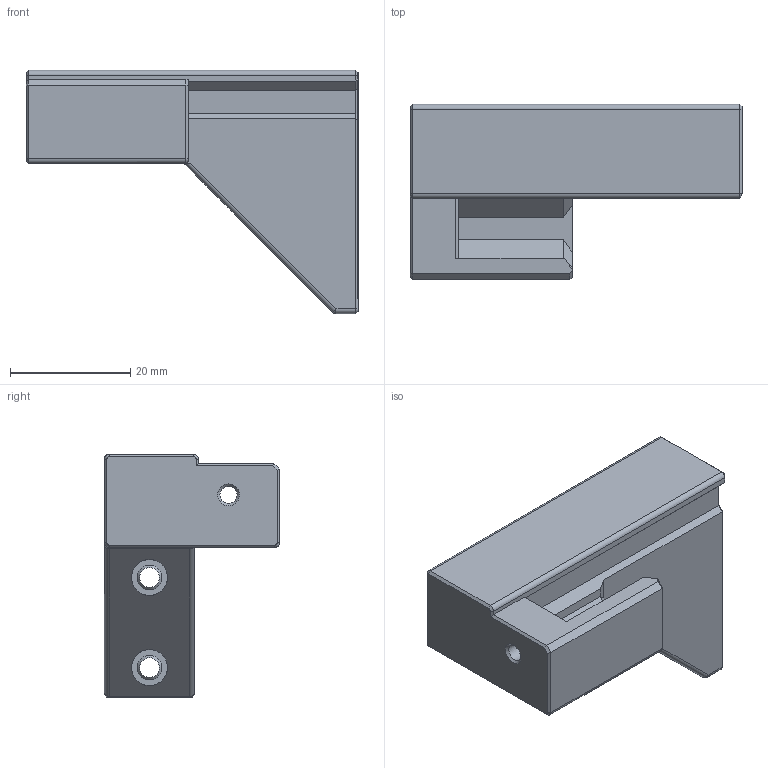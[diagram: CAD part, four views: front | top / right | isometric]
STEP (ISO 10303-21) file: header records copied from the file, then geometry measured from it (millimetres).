
FILE_DESCRIPTION(/* description */ (''),/* implementation_level */ '2;1');
FILE_NAME(/* name */ 'ZeroClick Center Dock Offset.step',/* time_stamp */ '2023-12-26T18:53:16+01:00',/* author */ (''),/* organization */ (''),/* preprocessor_version */ 'ST-DEVELOPER v20',/* originating_system */ 'Autodesk Translation Framework v12.14.0.127',/* authorisation */ '');
FILE_SCHEMA (('AUTOMOTIVE_DESIGN { 1 0 10303 214 3 1 1 }'));
Length unit declared in the file: millimetre
Products named in the file (1): ZeroClick Center Dock Offset
Bounding box: 55.25 x 29.15 x 40.5 mm (x, y, z)
Volume: 20918.2 mm3; surface area: 7224.6 mm2
Topology: 1 solids, 1 shells, 89 faces, 208 edges, 122 vertices
Faces by surface type: plane 53, cylinder 16, cone 10, bspline 6, sphere 2, torus 2
Full cylindrical faces by diameter (mm): 2.85 x1, 3.3 x2, 5.8 x1, 6 x2
Entity records: 2729 total; most frequent: CARTESIAN_POINT 707, ORIENTED_EDGE 416, DIRECTION 387, EDGE_CURVE 208, LINE 147, VECTOR 147, VERTEX_POINT 122, AXIS2_PLACEMENT_3D 120
